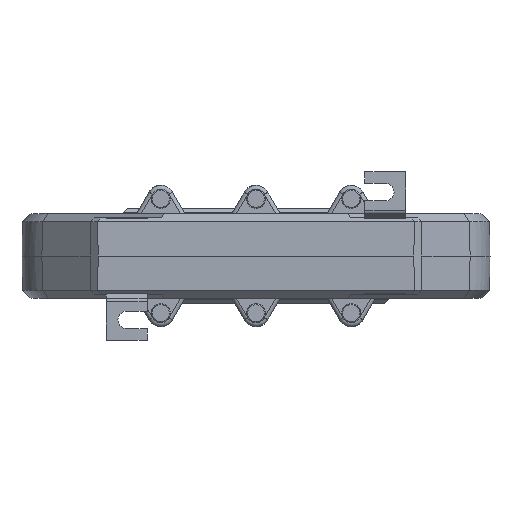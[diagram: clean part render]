
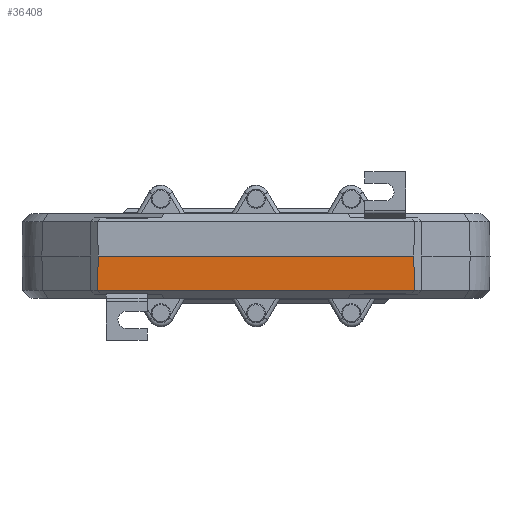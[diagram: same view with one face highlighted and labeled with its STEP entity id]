
A CAD part, front view. The second image highlights one B-rep face of the part: STEP entity #36408.
In plain terms, the highlighted planar face has unit normal (0, -1, -0.018).
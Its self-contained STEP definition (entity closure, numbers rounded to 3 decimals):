
#3177=FACE_OUTER_BOUND('',#5184,.T.);
#5184=EDGE_LOOP('',(#24976,#24977,#24978,#24979,#24980,#24981));
#7593=LINE('',#70355,#11079);
#7659=LINE('',#70585,#11145);
#7660=LINE('',#70587,#11146);
#7661=LINE('',#70588,#11147);
#7662=LINE('',#70590,#11148);
#7663=LINE('',#70591,#11149);
#11079=VECTOR('',#42020,1000.);
#11145=VECTOR('',#42166,1000.);
#11146=VECTOR('',#42167,1000.);
#11147=VECTOR('',#42168,1000.);
#11148=VECTOR('',#42169,1000.);
#11149=VECTOR('',#42170,1000.);
#15001=VERTEX_POINT('',#70352);
#15002=VERTEX_POINT('',#70354);
#15101=VERTEX_POINT('',#70583);
#15102=VERTEX_POINT('',#70584);
#15103=VERTEX_POINT('',#70586);
#15104=VERTEX_POINT('',#70589);
#18792=EDGE_CURVE('',#15002,#15001,#7593,.T.);
#18898=EDGE_CURVE('',#15101,#15102,#7659,.T.);
#18899=EDGE_CURVE('',#15101,#15103,#7660,.T.);
#18900=EDGE_CURVE('',#15002,#15103,#7661,.T.);
#18901=EDGE_CURVE('',#15104,#15001,#7662,.T.);
#18902=EDGE_CURVE('',#15104,#15102,#7663,.T.);
#24976=ORIENTED_EDGE('',*,*,#18898,.F.);
#24977=ORIENTED_EDGE('',*,*,#18899,.T.);
#24978=ORIENTED_EDGE('',*,*,#18900,.F.);
#24979=ORIENTED_EDGE('',*,*,#18792,.T.);
#24980=ORIENTED_EDGE('',*,*,#18901,.F.);
#24981=ORIENTED_EDGE('',*,*,#18902,.T.);
#33060=PLANE('',#38607);
#36408=ADVANCED_FACE('',(#3177),#33060,.T.);
#38607=AXIS2_PLACEMENT_3D('',#70582,#42164,#42165);
#42020=DIRECTION('',(1.,0.,0.));
#42164=DIRECTION('center_axis',(0.,-1.,
-0.017));
#42165=DIRECTION('ref_axis',(0.,-0.017,
1.));
#42166=DIRECTION('',(1.,0.,0.));
#42167=DIRECTION('',(-0.017,0.017,-1.));
#42168=DIRECTION('',(-0.813,-0.01,0.582));
#42169=DIRECTION('',(-0.813,0.01,-0.582));
#42170=DIRECTION('',(-0.017,-0.017,1.));
#70352=CARTESIAN_POINT('',(57.908,-81.778,-12.722));
#70354=CARTESIAN_POINT('',(-57.908,-81.778,-12.722));
#70355=CARTESIAN_POINT('',(49.,-81.778,-12.722));
#70582=CARTESIAN_POINT('Origin',(-61.,-82.,0.));
#70583=CARTESIAN_POINT('',(-58.,-82.,0.));
#70584=CARTESIAN_POINT('',(58.,-82.,0.));
#70585=CARTESIAN_POINT('',(61.,-82.,0.));
#70586=CARTESIAN_POINT('',(-58.218,-81.782,-12.5));
#70587=CARTESIAN_POINT('',(-58.272,-81.728,-15.595));
#70588=CARTESIAN_POINT('',(-65.975,-81.879,-6.947));
#70589=CARTESIAN_POINT('',(58.218,-81.782,-12.5));
#70590=CARTESIAN_POINT('',(-14.674,-80.871,-64.687));
#70591=CARTESIAN_POINT('',(58.27,-81.73,-15.491));
